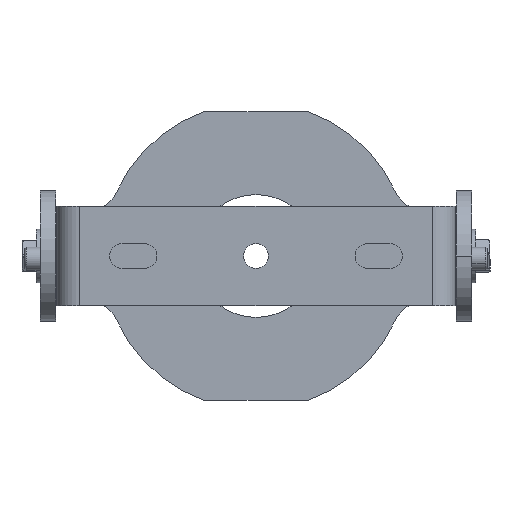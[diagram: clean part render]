
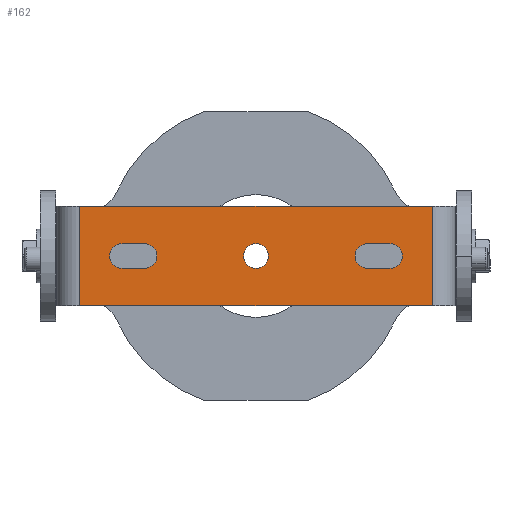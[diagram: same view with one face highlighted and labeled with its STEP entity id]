
A CAD part, front view. The second image highlights one B-rep face of the part: STEP entity #162.
In plain terms, the highlighted planar face has unit normal (0, -1, 0) as drawn and (0, 0, -1) by its records, which use the part's own axes.
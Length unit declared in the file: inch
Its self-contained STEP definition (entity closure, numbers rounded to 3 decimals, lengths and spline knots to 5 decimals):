
#96 = DIRECTION ( 'NONE',  ( 0., 0., 1. ) ) ;
#162 = ADVANCED_FACE ( 'NONE', ( #3214, #4985, #5570, #6780 ), #4908, .T. ) ;
#169 = VERTEX_POINT ( 'NONE', #5489 ) ;
#213 = ORIENTED_EDGE ( 'NONE', *, *, #550, .T. ) ;
#215 = CARTESIAN_POINT ( 'NONE',  ( 2.18176, 0., -0.25 ) ) ;
#314 = CARTESIAN_POINT ( 'NONE',  ( -4.26593, -0.8125, -0.25 ) ) ;
#400 = VECTOR ( 'NONE', #6700, 39.37008 ) ;
#457 = VECTOR ( 'NONE', #2834, 39.37008 ) ;
#540 = ORIENTED_EDGE ( 'NONE', *, *, #6322, .T. ) ;
#543 = VERTEX_POINT ( 'NONE', #4195 ) ;
#550 = EDGE_CURVE ( 'NONE', #169, #1876, #3523, .T. ) ;
#572 = DIRECTION ( 'NONE',  ( 0., 0., 1. ) ) ;
#745 = CARTESIAN_POINT ( 'NONE',  ( 2.87204, 0., -0.25 ) ) ;
#951 = ORIENTED_EDGE ( 'NONE', *, *, #5838, .T. ) ;
#1021 = DIRECTION ( 'NONE',  ( 1., 0., 0. ) ) ;
#1071 = VERTEX_POINT ( 'NONE', #6281 ) ;
#1103 = VERTEX_POINT ( 'NONE', #4376 ) ;
#1162 = CARTESIAN_POINT ( 'NONE',  ( -0.2031, 0., -0.25 ) ) ;
#1287 = LINE ( 'NONE', #745, #2066 ) ;
#1298 = EDGE_CURVE ( 'NONE', #1071, #1923, #1639, .T. ) ;
#1347 = CARTESIAN_POINT ( 'NONE',  ( -1.81824, 0., -0.25 ) ) ;
#1396 = LINE ( 'NONE', #3175, #4823 ) ;
#1432 = CARTESIAN_POINT ( 'NONE',  ( -2.87204, 0., -0.25 ) ) ;
#1438 = EDGE_CURVE ( 'NONE', #3909, #2772, #4293, .T. ) ;
#1475 = ORIENTED_EDGE ( 'NONE', *, *, #6806, .T. ) ;
#1571 = DIRECTION ( 'NONE',  ( -1., 0., 0. ) ) ;
#1639 = LINE ( 'NONE', #5771, #457 ) ;
#1809 = EDGE_CURVE ( 'NONE', #1876, #169, #3421, .T. ) ;
#1842 = DIRECTION ( 'NONE',  ( 1., 0., 0. ) ) ;
#1876 = VERTEX_POINT ( 'NONE', #1162 ) ;
#1908 = EDGE_LOOP ( 'NONE', ( #213, #4128 ) ) ;
#1923 = VERTEX_POINT ( 'NONE', #5949 ) ;
#1924 = DIRECTION ( 'NONE',  ( -1., 0., 0. ) ) ;
#1938 = DIRECTION ( 'NONE',  ( 0., 0., -1. ) ) ;
#1949 = VERTEX_POINT ( 'NONE', #6615 ) ;
#2066 = VECTOR ( 'NONE', #2705, 39.37008 ) ;
#2150 = CARTESIAN_POINT ( 'NONE',  ( 2.38486, 0., -0.25 ) ) ;
#2201 = ORIENTED_EDGE ( 'NONE', *, *, #2970, .T. ) ;
#2339 = VERTEX_POINT ( 'NONE', #2966 ) ;
#2425 = CIRCLE ( 'NONE', #2543, 0.2031 ) ;
#2482 = ORIENTED_EDGE ( 'NONE', *, *, #6765, .T. ) ;
#2531 = ORIENTED_EDGE ( 'NONE', *, *, #4000, .F. ) ;
#2543 = AXIS2_PLACEMENT_3D ( 'NONE', #1347, #5599, #6810 ) ;
#2680 = EDGE_CURVE ( 'NONE', #4996, #1949, #2425, .T. ) ;
#2705 = DIRECTION ( 'NONE',  ( 0., 1., 0. ) ) ;
#2738 = VECTOR ( 'NONE', #1571, 39.37008 ) ;
#2772 = VERTEX_POINT ( 'NONE', #7477 ) ;
#2834 = DIRECTION ( 'NONE',  ( 1., 0., 0. ) ) ;
#2876 = CARTESIAN_POINT ( 'NONE',  ( -1.81824, 0., -0.25 ) ) ;
#2953 = DIRECTION ( 'NONE',  ( 1., 0., 0. ) ) ;
#2966 = CARTESIAN_POINT ( 'NONE',  ( 2.87204, 0.8125, -0.25 ) ) ;
#2970 = EDGE_CURVE ( 'NONE', #543, #1071, #3650, .T. ) ;
#2978 = CIRCLE ( 'NONE', #6186, 0.2031 ) ;
#3046 = VECTOR ( 'NONE', #6665, 39.37008 ) ;
#3173 = EDGE_LOOP ( 'NONE', ( #4096, #2482, #5858, #2531 ) ) ;
#3175 = CARTESIAN_POINT ( 'NONE',  ( -2.18176, 0.2031, -0.25 ) ) ;
#3214 = FACE_BOUND ( 'NONE', #4980, .T. ) ;
#3231 = DIRECTION ( 'NONE',  ( -1., 0., 0. ) ) ;
#3263 = VERTEX_POINT ( 'NONE', #3270 ) ;
#3270 = CARTESIAN_POINT ( 'NONE',  ( 2.87204, -0.8125, -0.25 ) ) ;
#3322 = VERTEX_POINT ( 'NONE', #2150 ) ;
#3345 = AXIS2_PLACEMENT_3D ( 'NONE', #7353, #4857, #1924 ) ;
#3392 = EDGE_CURVE ( 'NONE', #1923, #4996, #7634, .T. ) ;
#3408 = AXIS2_PLACEMENT_3D ( 'NONE', #5394, #4269, #6642 ) ;
#3421 = CIRCLE ( 'NONE', #6134, 0.2031 ) ;
#3475 = VECTOR ( 'NONE', #4447, 39.37008 ) ;
#3477 = VERTEX_POINT ( 'NONE', #3609 ) ;
#3523 = CIRCLE ( 'NONE', #3408, 0.2031 ) ;
#3609 = CARTESIAN_POINT ( 'NONE',  ( 2.18176, -0.2031, -0.25 ) ) ;
#3650 = CIRCLE ( 'NONE', #5764, 0.2031 ) ;
#3909 = VERTEX_POINT ( 'NONE', #6976 ) ;
#3954 = CARTESIAN_POINT ( 'NONE',  ( 0., 0., -0.25 ) ) ;
#3973 = EDGE_LOOP ( 'NONE', ( #4782, #2201, #4272, #5293, #7285 ) ) ;
#4000 = EDGE_CURVE ( 'NONE', #3263, #2339, #1287, .T. ) ;
#4096 = ORIENTED_EDGE ( 'NONE', *, *, #6742, .F. ) ;
#4128 = ORIENTED_EDGE ( 'NONE', *, *, #1809, .T. ) ;
#4195 = CARTESIAN_POINT ( 'NONE',  ( -2.18176, 0.2031, -0.25 ) ) ;
#4241 = ORIENTED_EDGE ( 'NONE', *, *, #1438, .T. ) ;
#4259 = DIRECTION ( 'NONE',  ( 0., 0., 1. ) ) ;
#4269 = DIRECTION ( 'NONE',  ( 0., 0., 1. ) ) ;
#4272 = ORIENTED_EDGE ( 'NONE', *, *, #1298, .T. ) ;
#4293 = LINE ( 'NONE', #4866, #3046 ) ;
#4326 = CARTESIAN_POINT ( 'NONE',  ( 1.81824, -0.2031, -0.25 ) ) ;
#4376 = CARTESIAN_POINT ( 'NONE',  ( 1.81824, -0.2031, -0.25 ) ) ;
#4447 = DIRECTION ( 'NONE',  ( 1., 0., 0. ) ) ;
#4661 = CARTESIAN_POINT ( 'NONE',  ( -2.18176, 0., -0.25 ) ) ;
#4674 = VERTEX_POINT ( 'NONE', #5167 ) ;
#4763 = DIRECTION ( 'NONE',  ( -1., 0., 0. ) ) ;
#4782 = ORIENTED_EDGE ( 'NONE', *, *, #6713, .T. ) ;
#4823 = VECTOR ( 'NONE', #6148, 39.37008 ) ;
#4857 = DIRECTION ( 'NONE',  ( 0., 0., 1. ) ) ;
#4866 = CARTESIAN_POINT ( 'NONE',  ( 2.18176, 0.2031, -0.25 ) ) ;
#4891 = AXIS2_PLACEMENT_3D ( 'NONE', #2876, #96, #2953 ) ;
#4908 = PLANE ( 'NONE',  #5370 ) ;
#4980 = EDGE_LOOP ( 'NONE', ( #951, #540, #4241, #6777, #1475 ) ) ;
#4985 = FACE_BOUND ( 'NONE', #1908, .T. ) ;
#4996 = VERTEX_POINT ( 'NONE', #7219 ) ;
#5029 = CARTESIAN_POINT ( 'NONE',  ( 4.94339, 0., -0.25 ) ) ;
#5167 = CARTESIAN_POINT ( 'NONE',  ( -2.87204, 0.8125, -0.25 ) ) ;
#5293 = ORIENTED_EDGE ( 'NONE', *, *, #3392, .T. ) ;
#5370 = AXIS2_PLACEMENT_3D ( 'NONE', #5029, #1938, #6737 ) ;
#5394 = CARTESIAN_POINT ( 'NONE',  ( 0., 0., -0.25 ) ) ;
#5449 = VERTEX_POINT ( 'NONE', #6035 ) ;
#5489 = CARTESIAN_POINT ( 'NONE',  ( 0.2031, 0., -0.25 ) ) ;
#5530 = DIRECTION ( 'NONE',  ( 0., 1., 0. ) ) ;
#5570 = FACE_BOUND ( 'NONE', #3973, .T. ) ;
#5574 = VECTOR ( 'NONE', #5530, 39.37008 ) ;
#5599 = DIRECTION ( 'NONE',  ( 0., 0., 1. ) ) ;
#5607 = LINE ( 'NONE', #314, #3475 ) ;
#5650 = LINE ( 'NONE', #1432, #5574 ) ;
#5764 = AXIS2_PLACEMENT_3D ( 'NONE', #4661, #572, #1842 ) ;
#5771 = CARTESIAN_POINT ( 'NONE',  ( -1.81824, -0.2031, -0.25 ) ) ;
#5838 = EDGE_CURVE ( 'NONE', #3477, #3322, #6311, .T. ) ;
#5858 = ORIENTED_EDGE ( 'NONE', *, *, #6471, .F. ) ;
#5949 = CARTESIAN_POINT ( 'NONE',  ( -1.81824, -0.2031, -0.25 ) ) ;
#6011 = DIRECTION ( 'NONE',  ( 0., 0., 1. ) ) ;
#6035 = CARTESIAN_POINT ( 'NONE',  ( -2.87204, -0.8125, -0.25 ) ) ;
#6134 = AXIS2_PLACEMENT_3D ( 'NONE', #3954, #6310, #1021 ) ;
#6148 = DIRECTION ( 'NONE',  ( -1., 0., 0. ) ) ;
#6186 = AXIS2_PLACEMENT_3D ( 'NONE', #215, #6011, #3231 ) ;
#6281 = CARTESIAN_POINT ( 'NONE',  ( -2.18176, -0.2031, -0.25 ) ) ;
#6310 = DIRECTION ( 'NONE',  ( 0., 0., 1. ) ) ;
#6311 = CIRCLE ( 'NONE', #3345, 0.2031 ) ;
#6322 = EDGE_CURVE ( 'NONE', #3322, #3909, #2978, .T. ) ;
#6450 = AXIS2_PLACEMENT_3D ( 'NONE', #7218, #4259, #4763 ) ;
#6465 = CARTESIAN_POINT ( 'NONE',  ( 4.26593, 0.8125, -0.25 ) ) ;
#6471 = EDGE_CURVE ( 'NONE', #2339, #4674, #7602, .T. ) ;
#6615 = CARTESIAN_POINT ( 'NONE',  ( -1.81824, 0.2031, -0.25 ) ) ;
#6642 = DIRECTION ( 'NONE',  ( 1., 0., 0. ) ) ;
#6665 = DIRECTION ( 'NONE',  ( -1., 0., 0. ) ) ;
#6700 = DIRECTION ( 'NONE',  ( 1., 0., 0. ) ) ;
#6713 = EDGE_CURVE ( 'NONE', #1949, #543, #1396, .T. ) ;
#6737 = DIRECTION ( 'NONE',  ( -1., 0., 0. ) ) ;
#6742 = EDGE_CURVE ( 'NONE', #5449, #3263, #5607, .T. ) ;
#6765 = EDGE_CURVE ( 'NONE', #5449, #4674, #5650, .T. ) ;
#6777 = ORIENTED_EDGE ( 'NONE', *, *, #7608, .T. ) ;
#6780 = FACE_OUTER_BOUND ( 'NONE', #3173, .T. ) ;
#6806 = EDGE_CURVE ( 'NONE', #1103, #3477, #7408, .T. ) ;
#6810 = DIRECTION ( 'NONE',  ( 1., 0., 0. ) ) ;
#6976 = CARTESIAN_POINT ( 'NONE',  ( 2.18176, 0.2031, -0.25 ) ) ;
#7074 = CIRCLE ( 'NONE', #6450, 0.2031 ) ;
#7218 = CARTESIAN_POINT ( 'NONE',  ( 1.81824, 0., -0.25 ) ) ;
#7219 = CARTESIAN_POINT ( 'NONE',  ( -1.61514, 0., -0.25 ) ) ;
#7285 = ORIENTED_EDGE ( 'NONE', *, *, #2680, .T. ) ;
#7353 = CARTESIAN_POINT ( 'NONE',  ( 2.18176, 0., -0.25 ) ) ;
#7408 = LINE ( 'NONE', #4326, #400 ) ;
#7477 = CARTESIAN_POINT ( 'NONE',  ( 1.81824, 0.2031, -0.25 ) ) ;
#7602 = LINE ( 'NONE', #6465, #2738 ) ;
#7608 = EDGE_CURVE ( 'NONE', #2772, #1103, #7074, .T. ) ;
#7634 = CIRCLE ( 'NONE', #4891, 0.2031 ) ;
